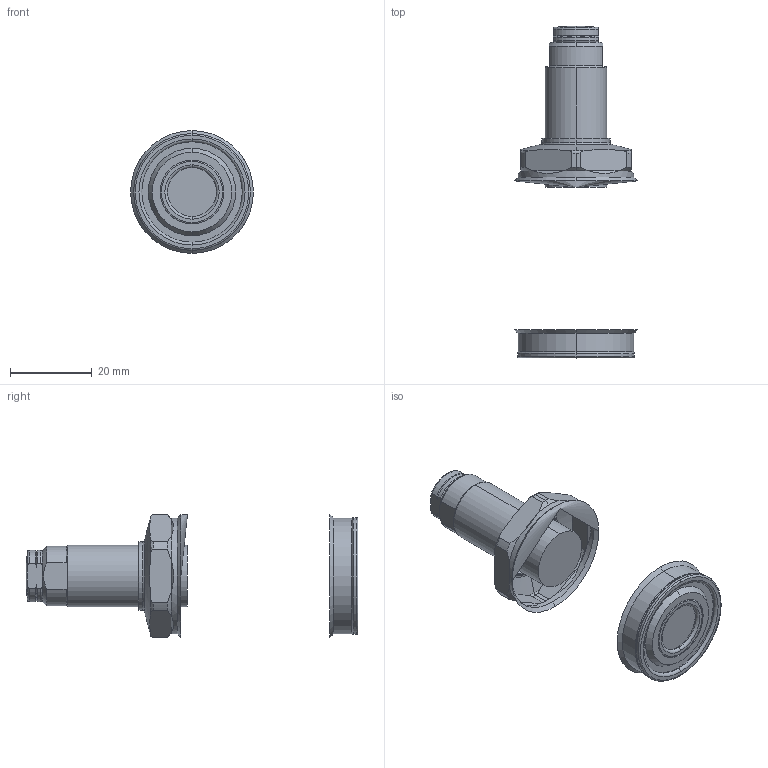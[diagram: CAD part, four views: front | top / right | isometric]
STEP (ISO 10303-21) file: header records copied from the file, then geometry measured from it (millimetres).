
FILE_DESCRIPTION(/* description */ (''),/* implementation_level */ '2;1');
FILE_NAME(/* name */ 'GSS03-Q.stp',/* time_stamp */ '2025-01-05T13:11:51+08:00',/* author */ (''),/* organization */ (''),/* preprocessor_version */ 'ST-DEVELOPER v16.7',/* originating_system */ 'SIEMENS PLM Software NX 12.0',/* authorisation */ '');
FILE_SCHEMA (('AUTOMOTIVE_DESIGN { 1 0 10303 214 3 1 1 1 }'));
Length unit declared in the file: millimetre
Products named in the file (7): TNC0403_ContactBolt_M104473; AS0102700; GSS03-Q-04; GSS03-Q-03; GSS03-Q-01; GSS03-Q-02; TNC0603-EQ_step
Assembly tree (6 placements, depth 3):
  TNC0603-EQ_step
    GSS03-Q-01
    GSS03-Q-02
      AS0102700
      TNC0403_ContactBolt_M104473
    GSS03-Q-03
    GSS03-Q-04
Bounding box: 30 x 81 x 30 mm (x, y, z)
Volume: 20365.4 mm3; surface area: 6735.3 mm2
Topology: 5 solids, 6 shells, 164 faces, 364 edges, 220 vertices
Faces by surface type: cylinder 48, torus 45, plane 35, cone 34, sphere 2
Full cylindrical faces by diameter (mm): 28.2 x1, 30 x2
Entity records: 5077 total; most frequent: CARTESIAN_POINT 1189, DIRECTION 873, ORIENTED_EDGE 732, AXIS2_PLACEMENT_3D 389, EDGE_CURVE 366, VERTEX_POINT 223, CIRCLE 213, EDGE_LOOP 179
